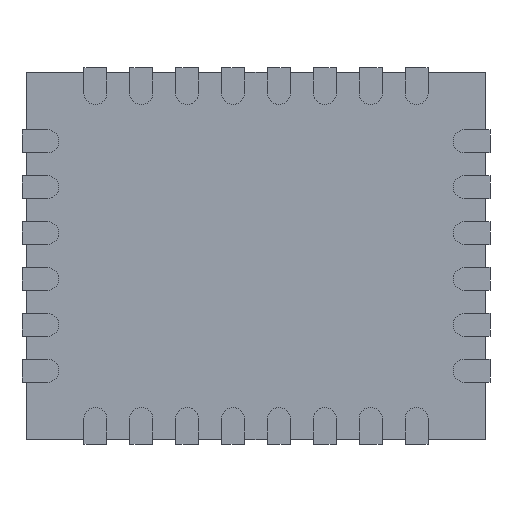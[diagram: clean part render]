
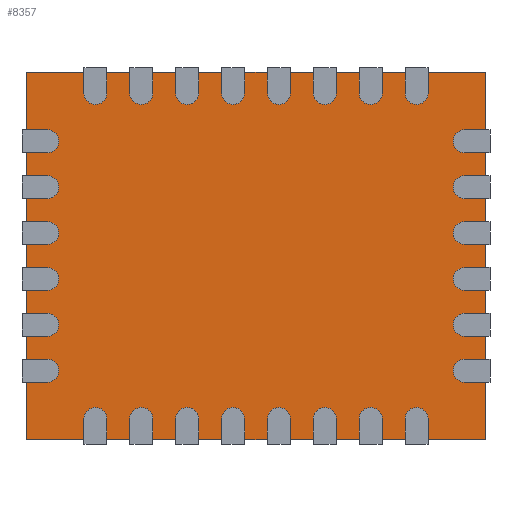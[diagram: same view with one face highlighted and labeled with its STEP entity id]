
A CAD part, front view. The second image highlights one B-rep face of the part: STEP entity #8357.
In plain terms, the highlighted planar face has unit normal (0, -1, 0).
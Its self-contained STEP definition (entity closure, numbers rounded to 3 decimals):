
#8200 = CARTESIAN_POINT ( 'NONE',  ( -2.5, 0.05, -2. ) ) ;
#8201 = VERTEX_POINT ( 'NONE', #8200 ) ;
#8202 = CARTESIAN_POINT ( 'NONE',  ( -2.5, 0.05, 2. ) ) ;
#8203 = VERTEX_POINT ( 'NONE', #8202 ) ;
#8204 = CARTESIAN_POINT ( 'NONE',  ( -2.5, 0.05, 2. ) ) ;
#8205 = DIRECTION ( 'NONE',  ( 0., 0., 1. ) ) ;
#8206 = VECTOR ( 'NONE', #8205, 1000. ) ;
#8207 = LINE ( 'NONE', #8204, #8206 ) ;
#8208 = EDGE_CURVE ( 'NONE', #8201, #8203, #8207, .T. ) ;
#8240 = CARTESIAN_POINT ( 'NONE',  ( 2.5, 0.05, 2. ) ) ;
#8241 = VERTEX_POINT ( 'NONE', #8240 ) ;
#8242 = CARTESIAN_POINT ( 'NONE',  ( 2.5, 0.05, 2. ) ) ;
#8243 = DIRECTION ( 'NONE',  ( 1., 0., 0. ) ) ;
#8244 = VECTOR ( 'NONE', #8243, 1000. ) ;
#8245 = LINE ( 'NONE', #8242, #8244 ) ;
#8246 = EDGE_CURVE ( 'NONE', #8203, #8241, #8245, .T. ) ;
#8271 = CARTESIAN_POINT ( 'NONE',  ( 2.5, 0.05, -2. ) ) ;
#8272 = VERTEX_POINT ( 'NONE', #8271 ) ;
#8273 = CARTESIAN_POINT ( 'NONE',  ( 2.5, 0.05, 2. ) ) ;
#8274 = DIRECTION ( 'NONE',  ( 0., 0., -1. ) ) ;
#8275 = VECTOR ( 'NONE', #8274, 1000. ) ;
#8276 = LINE ( 'NONE', #8273, #8275 ) ;
#8277 = EDGE_CURVE ( 'NONE', #8241, #8272, #8276, .T. ) ;
#8302 = CARTESIAN_POINT ( 'NONE',  ( 2.5, 0.05, -2. ) ) ;
#8303 = DIRECTION ( 'NONE',  ( -1., 0., 0. ) ) ;
#8304 = VECTOR ( 'NONE', #8303, 1000. ) ;
#8305 = LINE ( 'NONE', #8302, #8304 ) ;
#8306 = EDGE_CURVE ( 'NONE', #8272, #8201, #8305, .T. ) ;
#8346 = ORIENTED_EDGE ( 'NONE', *, *, #8208, .F. ) ;
#8347 = ORIENTED_EDGE ( 'NONE', *, *, #8306, .F. ) ;
#8348 = ORIENTED_EDGE ( 'NONE', *, *, #8277, .F. ) ;
#8349 = ORIENTED_EDGE ( 'NONE', *, *, #8246, .F. ) ;
#8350 = EDGE_LOOP ( 'NONE', ( #8346, #8347, #8348, #8349 ) ) ;
#8351 = FACE_OUTER_BOUND ( 'NONE', #8350, .T. ) ;
#8352 = CARTESIAN_POINT ( 'NONE',  ( 0., 0.05, 0. ) ) ;
#8353 = DIRECTION ( 'NONE',  ( 0., 1., 0. ) ) ;
#8354 = DIRECTION ( 'NONE',  ( 0., 0., 1. ) ) ;
#8355 = AXIS2_PLACEMENT_3D ( 'NONE', #8352, #8353, #8354 ) ;
#8356 = PLANE ( 'NONE', #8355 ) ;
#8357 = ADVANCED_FACE ( 'NONE', ( #8351 ), #8356, .F. ) ;
